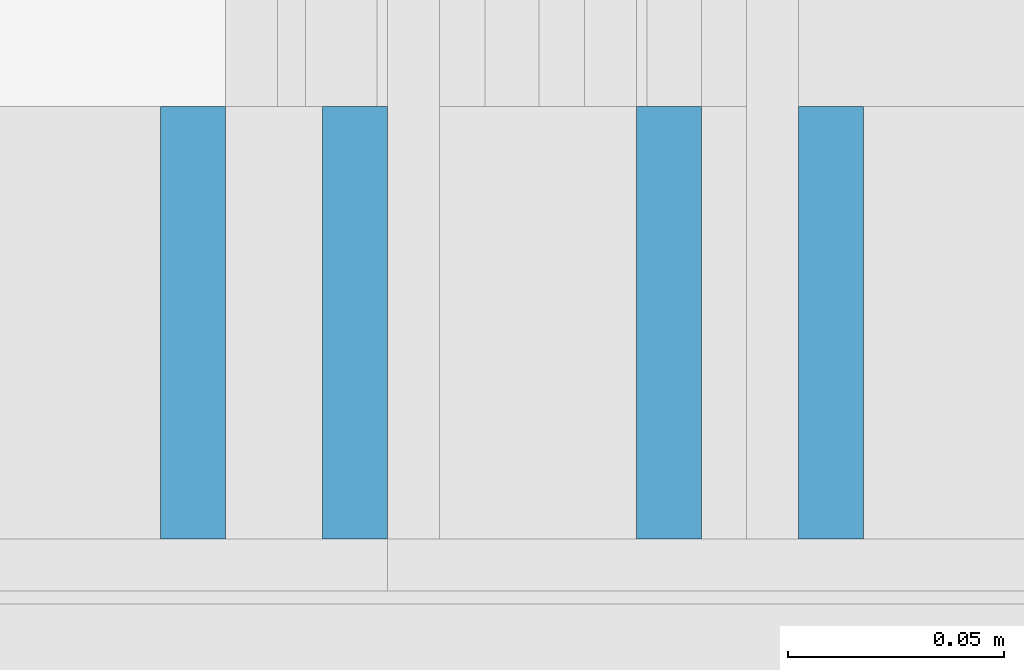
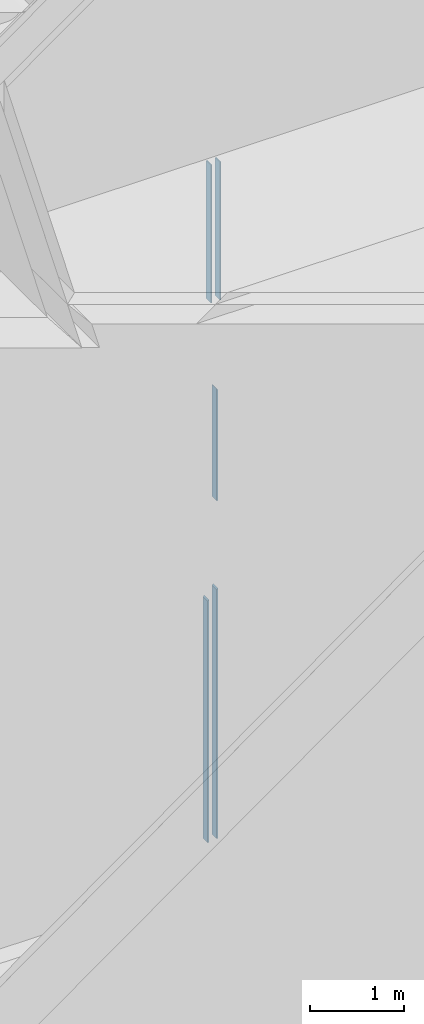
# One storey, part 50 of 583: 5 building element parts, 3 elements without a shape of their own.
"""IFC2X3 building model written with IfcOpenShell, lengths in metres."""

from ifc_helpers import new_model, entity, si_unit, converted_unit, derived_unit, money_unit, direction, frame, frame_2d, origin_with_axes, place, context, subcontext, project, spatial, polyline, rectangle, outline, extrude, material, type_object, element, aggregate, save


model = new_model("IFC2X3")

# Units and contexts
model_context = context("Model", 3, precision=1e-05, world=origin_with_axes(), true_north=direction((0.0, 1.0)))
body_context = subcontext(model_context, "Body", "Model", "MODEL_VIEW", scale=1.0)
ifc_project = project(units=[si_unit("LENGTHUNIT", "METRE"), si_unit("AREAUNIT", "SQUARE_METRE"), si_unit("VOLUMEUNIT", "CUBIC_METRE"), si_unit("ABSORBEDDOSEUNIT", "GRAY"), si_unit("AMOUNTOFSUBSTANCEUNIT", "MOLE"), si_unit("DOSEEQUIVALENTUNIT", "SIEVERT"), si_unit("ELECTRICCAPACITANCEUNIT", "FARAD"), si_unit("ELECTRICCHARGEUNIT", "COULOMB"), si_unit("ELECTRICCONDUCTANCEUNIT", "SIEMENS"), si_unit("ELECTRICCURRENTUNIT", "AMPERE"), si_unit("ELECTRICRESISTANCEUNIT", "OHM"), si_unit("ELECTRICVOLTAGEUNIT", "VOLT"), si_unit("ENERGYUNIT", "JOULE"), si_unit("FORCEUNIT", "NEWTON"), si_unit("FREQUENCYUNIT", "HERTZ"), si_unit("ILLUMINANCEUNIT", "LUX"), si_unit("INDUCTANCEUNIT", "HENRY"), si_unit("LUMINOUSFLUXUNIT", "LUMEN"), si_unit("LUMINOUSINTENSITYUNIT", "CANDELA"), si_unit("MAGNETICFLUXDENSITYUNIT", "TESLA"), si_unit("MAGNETICFLUXUNIT", "WEBER"), si_unit("MASSUNIT", "GRAM"), converted_unit("PLANEANGLEUNIT", "degree", entity("IfcReal", 0.0174532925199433), si_unit("PLANEANGLEUNIT", "RADIAN"), dimensions=[0, 0, 0, 0, 0, 0, 0]), si_unit("POWERUNIT", "WATT"), si_unit("PRESSUREUNIT", "PASCAL"), si_unit("RADIOACTIVITYUNIT", "BECQUEREL"), si_unit("SOLIDANGLEUNIT", "STERADIAN"), si_unit("THERMODYNAMICTEMPERATUREUNIT", "KELVIN"), si_unit("TIMEUNIT", "SECOND"), derived_unit("ACCELERATIONUNIT", [(si_unit("LENGTHUNIT", "METRE"), 1), (si_unit("TIMEUNIT", "SECOND"), -2)]), derived_unit("ANGULARVELOCITYUNIT", [(converted_unit("PLANEANGLEUNIT", "degree", entity("IfcReal", 0.0174532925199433), si_unit("PLANEANGLEUNIT", "RADIAN"), dimensions=[0, 0, 0, 0, 0, 0, 0]), 1), (si_unit("TIMEUNIT", "SECOND"), -1)]), derived_unit("CURVATUREUNIT", [(converted_unit("PLANEANGLEUNIT", "degree", entity("IfcReal", 0.0174532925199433), si_unit("PLANEANGLEUNIT", "RADIAN"), dimensions=[0, 0, 0, 0, 0, 0, 0]), 1), (si_unit("LENGTHUNIT", "METRE"), -1)]), derived_unit("DYNAMICVISCOSITYUNIT", [(si_unit("PRESSUREUNIT", "PASCAL"), 1), (si_unit("TIMEUNIT", "SECOND"), 1)]), derived_unit("HEATFLUXDENSITYUNIT", [(si_unit("POWERUNIT", "WATT"), 1), (si_unit("LENGTHUNIT", "METRE"), -2)]), derived_unit("HEATINGVALUEUNIT", [(si_unit("ENERGYUNIT", "JOULE"), 1), (si_unit("MASSUNIT", "GRAM"), -1)]), derived_unit("INTEGERCOUNTRATEUNIT", [(si_unit("TIMEUNIT", "SECOND"), -1)]), derived_unit("IONCONCENTRATIONUNIT", [(si_unit("MASSUNIT", "GRAM"), 1), (si_unit("VOLUMEUNIT", "CUBIC_METRE"), -1)]), derived_unit("ISOTHERMALMOISTURECAPACITYUNIT", [(si_unit("VOLUMEUNIT", "CUBIC_METRE"), 1), (si_unit("MASSUNIT", "GRAM"), -1)]), derived_unit("KINEMATICVISCOSITYUNIT", [(si_unit("AREAUNIT", "SQUARE_METRE"), 1), (si_unit("TIMEUNIT", "SECOND"), -1)]), derived_unit("LINEARFORCEUNIT", [(si_unit("FORCEUNIT", "NEWTON"), 1), (si_unit("LENGTHUNIT", "METRE"), -1)]), derived_unit("LINEARMOMENTUNIT", [(si_unit("FORCEUNIT", "NEWTON"), 1), (si_unit("LENGTHUNIT", "METRE"), -1)]), derived_unit("LINEARSTIFFNESSUNIT", [(si_unit("FORCEUNIT", "NEWTON"), 1), (si_unit("LENGTHUNIT", "METRE"), -1)]), derived_unit("LINEARVELOCITYUNIT", [(si_unit("LENGTHUNIT", "METRE"), 1), (si_unit("TIMEUNIT", "SECOND"), -1)]), derived_unit("LUMINOUSINTENSITYDISTRIBUTIONUNIT", [(si_unit("LUMINOUSINTENSITYUNIT", "CANDELA"), 1), (si_unit("LUMINOUSFLUXUNIT", "LUMEN"), -1)]), derived_unit("MASSDENSITYUNIT", [(si_unit("MASSUNIT", "GRAM"), 1), (si_unit("VOLUMEUNIT", "CUBIC_METRE"), -1)]), derived_unit("MASSFLOWRATEUNIT", [(si_unit("MASSUNIT", "GRAM"), 1), (si_unit("TIMEUNIT", "SECOND"), -1)]), derived_unit("MASSPERLENGTHUNIT", [(si_unit("MASSUNIT", "GRAM"), 1), (si_unit("LENGTHUNIT", "METRE"), -1)]), derived_unit("MODULUSOFELASTICITYUNIT", [(si_unit("FORCEUNIT", "NEWTON"), 1), (si_unit("AREAUNIT", "SQUARE_METRE"), -1)]), derived_unit("MODULUSOFLINEARSUBGRADEREACTIONUNIT", [(si_unit("FORCEUNIT", "NEWTON"), 1), (si_unit("LENGTHUNIT", "METRE"), -2)]), derived_unit("MODULUSOFROTATIONALSUBGRADEREACTIONUNIT", [(si_unit("FORCEUNIT", "NEWTON"), 1), (si_unit("LENGTHUNIT", "METRE"), 1)]), derived_unit("MODULUSOFSUBGRADEREACTIONUNIT", [(si_unit("FORCEUNIT", "NEWTON"), 1), (si_unit("VOLUMEUNIT", "CUBIC_METRE"), -1)]), derived_unit("MOISTUREDIFFUSIVITYUNIT", [(si_unit("VOLUMEUNIT", "CUBIC_METRE"), 1), (si_unit("TIMEUNIT", "SECOND"), -1)]), derived_unit("MOLECULARWEIGHTUNIT", [(si_unit("MASSUNIT", "GRAM"), 1), (si_unit("AMOUNTOFSUBSTANCEUNIT", "MOLE"), -1)]), derived_unit("PLANARFORCEUNIT", [(si_unit("FORCEUNIT", "NEWTON"), 1), (si_unit("LENGTHUNIT", "METRE"), -2)]), derived_unit("ROTATIONALFREQUENCYUNIT", [(si_unit("TIMEUNIT", "SECOND"), -1)]), derived_unit("ROTATIONALMASSUNIT", [(si_unit("MASSUNIT", "GRAM"), 1), (si_unit("LENGTHUNIT", "METRE"), 2)]), derived_unit("ROTATIONALSTIFFNESSUNIT", [(si_unit("FORCEUNIT", "NEWTON"), 1), (si_unit("LENGTHUNIT", "METRE"), 1), (converted_unit("PLANEANGLEUNIT", "degree", entity("IfcReal", 0.0174532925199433), si_unit("PLANEANGLEUNIT", "RADIAN"), dimensions=[0, 0, 0, 0, 0, 0, 0]), -1)]), derived_unit("SECTIONAREAINTEGRALUNIT", [(si_unit("LENGTHUNIT", "METRE"), 5)]), derived_unit("SECTIONMODULUSUNIT", [(si_unit("LENGTHUNIT", "METRE"), 3)]), derived_unit("SHEARMODULUSUNIT", [(si_unit("FORCEUNIT", "NEWTON"), 1), (si_unit("AREAUNIT", "SQUARE_METRE"), -1)]), derived_unit("SOUNDPOWERUNIT", [(si_unit("ENERGYUNIT", "JOULE"), 1), (si_unit("TIMEUNIT", "SECOND"), -1)]), derived_unit("SPECIFICHEATCAPACITYUNIT", [(si_unit("FORCEUNIT", "NEWTON"), 1), (si_unit("MASSUNIT", "GRAM"), -1), (si_unit("THERMODYNAMICTEMPERATUREUNIT", "KELVIN"), -1)]), derived_unit("TEMPERATUREGRADIENTUNIT", [(si_unit("THERMODYNAMICTEMPERATUREUNIT", "KELVIN"), 1), (si_unit("LENGTHUNIT", "METRE"), -1)]), derived_unit("THERMALADMITTANCEUNIT", [(si_unit("POWERUNIT", "WATT"), 1), (si_unit("AREAUNIT", "SQUARE_METRE"), -1), (si_unit("THERMODYNAMICTEMPERATUREUNIT", "KELVIN"), -1)]), derived_unit("THERMALCONDUCTANCEUNIT", [(si_unit("POWERUNIT", "WATT"), 1), (si_unit("LENGTHUNIT", "METRE"), -1), (si_unit("THERMODYNAMICTEMPERATUREUNIT", "KELVIN"), -1)]), derived_unit("THERMALEXPANSIONCOEFFICIENTUNIT", [(si_unit("THERMODYNAMICTEMPERATUREUNIT", "KELVIN"), -1)]), derived_unit("THERMALRESISTANCEUNIT", [(si_unit("AREAUNIT", "SQUARE_METRE"), 1), (si_unit("POWERUNIT", "WATT"), -1)]), derived_unit("THERMALTRANSMITTANCEUNIT", [(si_unit("POWERUNIT", "WATT"), 1), (si_unit("AREAUNIT", "SQUARE_METRE"), -1), (si_unit("THERMODYNAMICTEMPERATUREUNIT", "KELVIN"), -1)]), derived_unit("TORQUEUNIT", [(si_unit("FORCEUNIT", "NEWTON"), 1), (si_unit("LENGTHUNIT", "METRE"), 1)]), derived_unit("VAPORPERMEABILITYUNIT", [(si_unit("MASSUNIT", "GRAM"), 1), (si_unit("TIMEUNIT", "SECOND"), -1)]), derived_unit("VOLUMETRICFLOWRATEUNIT", [(si_unit("VOLUMEUNIT", "CUBIC_METRE"), 1), (si_unit("TIMEUNIT", "SECOND"), -1)]), derived_unit("WARPINGCONSTANTUNIT", [(si_unit("LENGTHUNIT", "METRE"), 6)]), derived_unit("WARPINGMOMENTUNIT", [(si_unit("FORCEUNIT", "NEWTON"), 1), (si_unit("LENGTHUNIT", "METRE"), 2)]), money_unit("GBP")], contexts=[model_context])

# Site, building, storey
site_placement = place(None, origin_with_axes())
site = spatial("IfcSite", under=ifc_project, at=site_placement, Name="Site", CompositionType="ELEMENT")
building_placement = place(site_placement, origin_with_axes())
building = spatial("IfcBuilding", under=site, at=building_placement, Name="Building01", CompositionType="ELEMENT")
storey_placement = place(building_placement, frame((0.0, 0.0, 20.78), z_axis=(0.0, 0.0, 1.0), x_axis=(1.0, 0.0, 0.0)))
storey = spatial("IfcBuildingStorey", under=building, at=storey_placement, Name="RL", CompositionType="ELEMENT", Elevation=20.78)

# Wall, building element parts
wall_type = type_object("IfcWallType", Name="SHE_A-Walls_Type05a_Partition_95mm_tall", PredefinedType="NOTDEFINED")
wall_1_placement = place(storey_placement, frame((11.703124, 5.15, -11.69), z_axis=(0.0, 1.0, 0.0), x_axis=(0.0, 0.0, -1.0)))
wall_1 = element("IfcWall", 1, at=wall_1_placement, inside=storey, type_object=wall_type, Name="5A", ObjectType="SHE_A-Walls_Type05a_Partition_95mm_tall")
ifc_material = material(Name="A_BSUK_Walls_Timber")
placement_1 = place(wall_1_placement, origin_with_axes())
building_element_part_1 = element("IfcBuildingElementPart", 2, at=placement_1, material=ifc_material, Name="2", context=body_context, shape_type="SweptSolid", body=[
    extrude(rectangle(XDim=1.785331, YDim=0.015, at=frame_2d((0.892666, 0.0425), x_axis=(-1.0, 0.0))), frame((0.0, 0.0, 0.015), z_axis=(0.0, 0.0, 1.0), x_axis=(1.0, 0.0, 0.0)), (0.0, 0.0, 1.0), 0.1),
])
building_element_part_2 = element("IfcBuildingElementPart", 3, at=placement_1, material=ifc_material, Name="3", context=body_context, shape_type="SweptSolid", body=[
    extrude(rectangle(XDim=1.785331, YDim=0.015, at=frame_2d((0.892666, -0.0675), x_axis=(-1.0, 0.0))), frame((0.0, 0.0, 0.015), z_axis=(0.0, 0.0, 1.0), x_axis=(1.0, 0.0, 0.0)), (0.0, 0.0, 1.0), 0.1),
])
aggregate(wall_1, [building_element_part_1, building_element_part_2])

# Wall, building element part
wall_2_placement = place(storey_placement, frame((11.66567, 5.15, -16.110331), z_axis=(0.0, 1.0, 0.0), x_axis=(0.0, 0.0, 1.0)))
wall_2 = element("IfcWall", 4, at=wall_2_placement, inside=storey, type_object=wall_type, Name="5A", ObjectType="SHE_A-Walls_Type05a_Partition_95mm_tall")
building_element_part_3_placement = place(wall_2_placement, origin_with_axes())
building_element_part_3 = element("IfcBuildingElementPart", 5, at=building_element_part_3_placement, material=ifc_material, Name="2", context=body_context, shape_type="SweptSolid", body=[
    extrude(outline(polyline([(1.485, 0.075), (0.05, 0.075), (0.05, 0.06), (1.5, 0.06), (1.485, 0.075)])), frame((0.0, 0.0, 0.015), z_axis=(0.0, 0.0, 1.0), x_axis=(1.0, 0.0, 0.0)), (0.0, 0.0, 1.0), 0.1),
])
aggregate(wall_2, [building_element_part_3])

# Wall, building element parts
wall_3_placement = place(storey_placement, frame((11.69067, 5.15, -20.447), z_axis=(0.0, 1.0, 0.0), x_axis=(0.0, 0.0, 1.0)))
wall_3 = element("IfcWall", 6, at=wall_3_placement, inside=storey, type_object=wall_type, Name="5A", ObjectType="SHE_A-Walls_Type05a_Partition_95mm_tall")
placement_2 = place(wall_3_placement, origin_with_axes())
building_element_part_4 = element("IfcBuildingElementPart", 7, at=placement_2, material=ifc_material, Name="2", context=body_context, shape_type="SweptSolid", body=[
    extrude(outline(polyline([(3.141669, -0.06), (0.0, -0.06), (0.0, -0.075), (3.126669, -0.075), (3.141669, -0.06)])), frame((0.0, 0.0, 0.015), z_axis=(0.0, 0.0, 1.0), x_axis=(1.0, 0.0, 0.0)), (0.0, 0.0, 1.0), 0.1),
])
building_element_part_5 = element("IfcBuildingElementPart", 8, at=placement_2, material=ifc_material, Name="3", context=body_context, shape_type="SweptSolid", body=[
    extrude(outline(polyline([(3.251669, 0.05), (0.015, 0.05), (0.015, 0.035), (3.236669, 0.035), (3.251669, 0.05)])), frame((0.0, 0.0, 0.015), z_axis=(0.0, 0.0, 1.0), x_axis=(1.0, 0.0, 0.0)), (0.0, 0.0, 1.0), 0.1),
])
aggregate(wall_3, [building_element_part_4, building_element_part_5])

save(model, "model.ifc")
